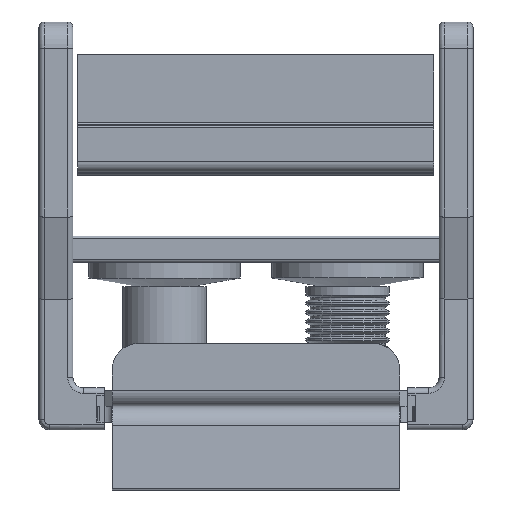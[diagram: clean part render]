
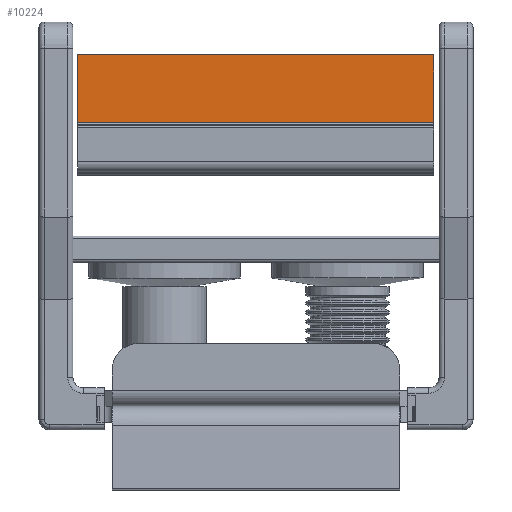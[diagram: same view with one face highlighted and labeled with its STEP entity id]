
A CAD part, left-side view. The second image highlights one B-rep face of the part: STEP entity #10224.
In plain terms, the highlighted planar face has unit normal (-1, 0, 0).
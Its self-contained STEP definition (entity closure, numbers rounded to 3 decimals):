
#319 = CARTESIAN_POINT ( 'NONE',  ( 63.55, 211.169, 94.475 ) ) ;
#431 = EDGE_CURVE ( 'NONE', #22961, #7043, #6153, .T. ) ;
#473 = AXIS2_PLACEMENT_3D ( 'NONE', #32744, #1013, #892 ) ;
#892 = DIRECTION ( 'NONE',  ( 0., 0., 1. ) ) ;
#1013 = DIRECTION ( 'NONE',  ( -1., 0., 0. ) ) ;
#2774 = DIRECTION ( 'NONE',  ( 0., -1., 0. ) ) ;
#4866 = CARTESIAN_POINT ( 'NONE',  ( 63.55, 139.34, 94.475 ) ) ;
#5360 = DIRECTION ( 'NONE',  ( 0., -1., 0. ) ) ;
#6153 = LINE ( 'NONE', #15770, #16063 ) ;
#6314 = EDGE_CURVE ( 'NONE', #6900, #21559, #31594, .T. ) ;
#6469 = ORIENTED_EDGE ( 'NONE', *, *, #30112, .T. ) ;
#6900 = VERTEX_POINT ( 'NONE', #4866 ) ;
#7043 = VERTEX_POINT ( 'NONE', #10965 ) ;
#7490 = CARTESIAN_POINT ( 'NONE',  ( 63.55, 71.24, 94.475 ) ) ;
#10224 = ADVANCED_FACE ( 'NONE', ( #23119 ), #16566, .T. ) ;
#10746 = EDGE_CURVE ( 'NONE', #22961, #6900, #24756, .T. ) ;
#10965 = CARTESIAN_POINT ( 'NONE',  ( 63.55, 71.24, 81.475 ) ) ;
#11977 = DIRECTION ( 'NONE',  ( 0., 0., 1. ) ) ;
#14053 = LINE ( 'NONE', #14768, #26900 ) ;
#14554 = CARTESIAN_POINT ( 'NONE',  ( 63.55, 139.34, 75.975 ) ) ;
#14768 = CARTESIAN_POINT ( 'NONE',  ( 63.55, 71.24, 80.975 ) ) ;
#15103 = ORIENTED_EDGE ( 'NONE', *, *, #10746, .F. ) ;
#15304 = ORIENTED_EDGE ( 'NONE', *, *, #431, .T. ) ;
#15770 = CARTESIAN_POINT ( 'NONE',  ( 63.55, 84.24, 81.475 ) ) ;
#15878 = CARTESIAN_POINT ( 'NONE',  ( 63.55, 139.34, 81.475 ) ) ;
#16063 = VECTOR ( 'NONE', #2774, 1000. ) ;
#16566 = PLANE ( 'NONE',  #473 ) ;
#17096 = DIRECTION ( 'NONE',  ( 0., 0., 1. ) ) ;
#18294 = EDGE_LOOP ( 'NONE', ( #6469, #32036, #15103, #15304 ) ) ;
#18786 = VECTOR ( 'NONE', #5360, 1000. ) ;
#21559 = VERTEX_POINT ( 'NONE', #7490 ) ;
#22961 = VERTEX_POINT ( 'NONE', #15878 ) ;
#23119 = FACE_OUTER_BOUND ( 'NONE', #18294, .T. ) ;
#24756 = LINE ( 'NONE', #14554, #29724 ) ;
#26900 = VECTOR ( 'NONE', #11977, 1000. ) ;
#29724 = VECTOR ( 'NONE', #17096, 1000. ) ;
#30112 = EDGE_CURVE ( 'NONE', #7043, #21559, #14053, .T. ) ;
#31594 = LINE ( 'NONE', #319, #18786 ) ;
#32036 = ORIENTED_EDGE ( 'NONE', *, *, #6314, .F. ) ;
#32744 = CARTESIAN_POINT ( 'NONE',  ( 63.55, 84.24, 80.975 ) ) ;
